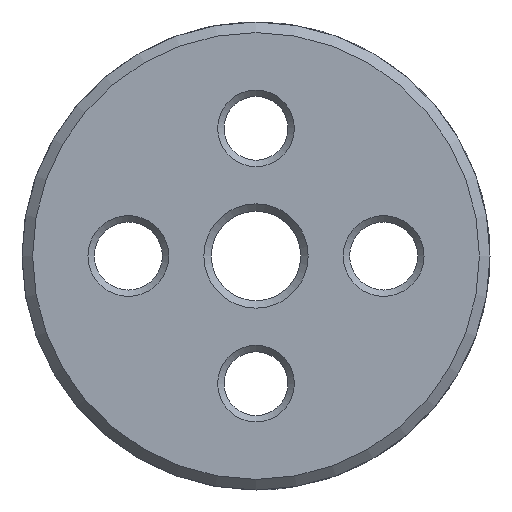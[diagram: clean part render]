
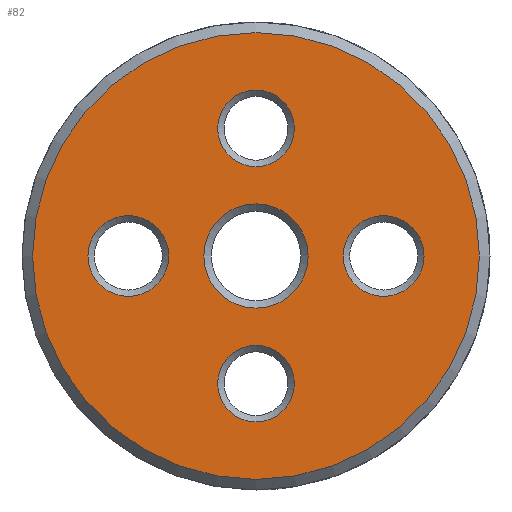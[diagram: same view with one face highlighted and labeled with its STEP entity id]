
A CAD part, front view. The second image highlights one B-rep face of the part: STEP entity #82.
In plain terms, the highlighted planar face has unit normal (0, -1, 0).
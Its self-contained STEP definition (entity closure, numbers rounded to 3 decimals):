
#82 = ADVANCED_FACE( '', ( #125, #126, #127, #128, #129, #130 ), #131, .F. );
#125 = FACE_BOUND( '', #218, .T. );
#126 = FACE_BOUND( '', #219, .T. );
#127 = FACE_BOUND( '', #220, .T. );
#128 = FACE_BOUND( '', #221, .T. );
#129 = FACE_BOUND( '', #222, .T. );
#130 = FACE_OUTER_BOUND( '', #223, .T. );
#131 = PLANE( '', #224 );
#218 = EDGE_LOOP( '', ( #357 ) );
#219 = EDGE_LOOP( '', ( #358 ) );
#220 = EDGE_LOOP( '', ( #359 ) );
#221 = EDGE_LOOP( '', ( #360 ) );
#222 = EDGE_LOOP( '', ( #361 ) );
#223 = EDGE_LOOP( '', ( #362 ) );
#224 = AXIS2_PLACEMENT_3D( '', #363, #364, #365 );
#357 = ORIENTED_EDGE( '', *, *, #553, .F. );
#358 = ORIENTED_EDGE( '', *, *, #554, .F. );
#359 = ORIENTED_EDGE( '', *, *, #555, .F. );
#360 = ORIENTED_EDGE( '', *, *, #556, .F. );
#361 = ORIENTED_EDGE( '', *, *, #557, .F. );
#362 = ORIENTED_EDGE( '', *, *, #552, .T. );
#363 = CARTESIAN_POINT( '', ( 10.5, 0., 0. ) );
#364 = DIRECTION( '', ( 0., 1., 0. ) );
#365 = DIRECTION( '', ( 0., 0., 1. ) );
#552 = EDGE_CURVE( '', #640, #640, #641, .T. );
#553 = EDGE_CURVE( '', #642, #642, #643, .T. );
#554 = EDGE_CURVE( '', #644, #644, #645, .F. );
#555 = EDGE_CURVE( '', #646, #646, #647, .T. );
#556 = EDGE_CURVE( '', #648, #648, #649, .T. );
#557 = EDGE_CURVE( '', #650, #650, #651, .T. );
#640 = VERTEX_POINT( '', #856 );
#641 = CIRCLE( '', #857, 10.5 );
#642 = VERTEX_POINT( '', #858 );
#643 = CIRCLE( '', #859, 2.45 );
#644 = VERTEX_POINT( '', #860 );
#645 = CIRCLE( '', #861, 1.9 );
#646 = VERTEX_POINT( '', #862 );
#647 = CIRCLE( '', #863, 1.8 );
#648 = VERTEX_POINT( '', #864 );
#649 = CIRCLE( '', #865, 1.8 );
#650 = VERTEX_POINT( '', #866 );
#651 = CIRCLE( '', #867, 1.9 );
#856 = CARTESIAN_POINT( '', ( 0., 0., -10.5 ) );
#857 = AXIS2_PLACEMENT_3D( '', #980, #981, #982 );
#858 = CARTESIAN_POINT( '', ( 0., 0., -2.45 ) );
#859 = AXIS2_PLACEMENT_3D( '', #983, #984, #985 );
#860 = CARTESIAN_POINT( '', ( 6., 0., 1.9 ) );
#861 = AXIS2_PLACEMENT_3D( '', #986, #987, #988 );
#862 = CARTESIAN_POINT( '', ( 0., 0., 4.2 ) );
#863 = AXIS2_PLACEMENT_3D( '', #989, #990, #991 );
#864 = CARTESIAN_POINT( '', ( 0., 0., -7.8 ) );
#865 = AXIS2_PLACEMENT_3D( '', #992, #993, #994 );
#866 = CARTESIAN_POINT( '', ( -6., 0., -1.9 ) );
#867 = AXIS2_PLACEMENT_3D( '', #995, #996, #997 );
#980 = CARTESIAN_POINT( '', ( 0., 0., 0. ) );
#981 = DIRECTION( '', ( 0., -1., 0. ) );
#982 = DIRECTION( '', ( 0., 0., -1. ) );
#983 = CARTESIAN_POINT( '', ( 0., 0., 0. ) );
#984 = DIRECTION( '', ( 0., -1., 0. ) );
#985 = DIRECTION( '', ( 0., 0., -1. ) );
#986 = CARTESIAN_POINT( '', ( 6., 0., 0. ) );
#987 = DIRECTION( '', ( 0., 1., 0. ) );
#988 = DIRECTION( '', ( 0., 0., 1. ) );
#989 = CARTESIAN_POINT( '', ( 0., 0., 6. ) );
#990 = DIRECTION( '', ( 0., -1., 0. ) );
#991 = DIRECTION( '', ( 0., 0., -1. ) );
#992 = CARTESIAN_POINT( '', ( 0., 0., -6. ) );
#993 = DIRECTION( '', ( 0., -1., 0. ) );
#994 = DIRECTION( '', ( 0., 0., -1. ) );
#995 = CARTESIAN_POINT( '', ( -6., 0., 0. ) );
#996 = DIRECTION( '', ( 0., -1., 0. ) );
#997 = DIRECTION( '', ( 0., 0., -1. ) );
